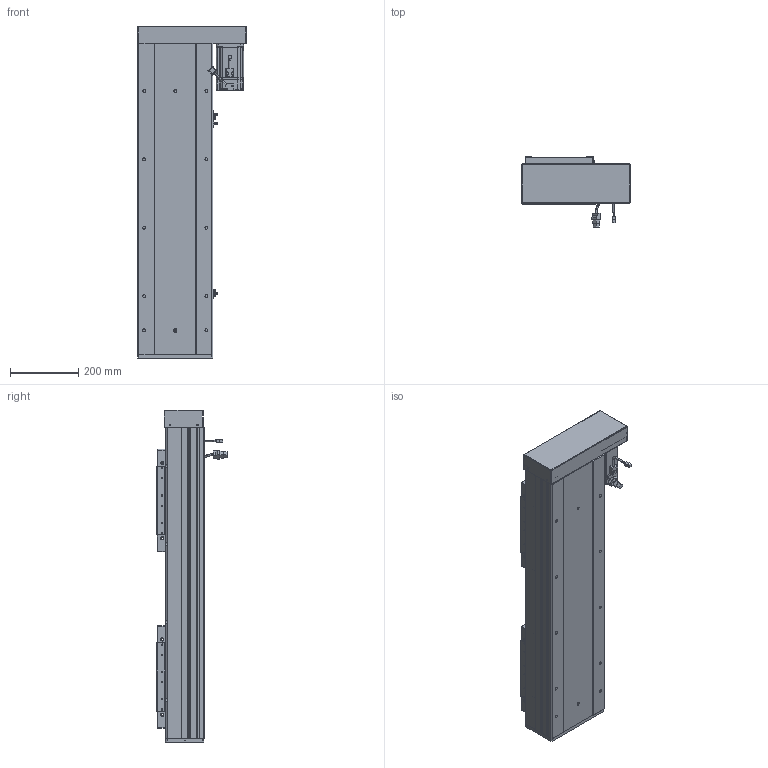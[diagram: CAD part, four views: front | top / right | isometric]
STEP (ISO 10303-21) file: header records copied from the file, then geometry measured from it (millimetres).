
FILE_DESCRIPTION (( 'STEP AP203' ), '1' );
FILE_NAME ('RY220F-L2525-300-RK.SLDASM_500.step', '2022-07-04T01:34:55', ( '' ), ( '' ), 'SwSTEP 2.0', 'SolidWorks 2016', '' );
FILE_SCHEMA (( 'CONFIG_CONTROL_DESIGN' ));
Length unit declared in the file: millimetre
Products named in the file (15): RY220F-祥凄詩湍-蛌殏-300_500; RY220F-L2525-300-RK.SLDASM_500; 滅袉蝶18-24; RY220F-詩湍揤踡輸; RY220F-672覜茼んえ; RY220F綴裔啣; RY220酘衵殏萇儂欶; 覜茼ん672; RY220F臏賑釱25-32佪裝; 怢湛750W_ECMA-CX0807ES; 侐源滅袉蝶; RY220左右折电机安装板; RY220F-滅鳥奻裔; RY220F蛌殏菁釱-300_500; RY220F-蛌殏奻裔啣-300_500
Assembly tree (24 placements, depth 2):
  RY220F-L2525-300-RK.SLDASM_500
    RY220F蛌殏菁釱-300_500
    RY220F-蛌殏奻裔啣-300_500  x2
    怢湛750W_ECMA-CX0807ES
    RY220F臏賑釱25-32佪裝  x2
    RY220F-滅鳥奻裔  x2
    滅袉蝶18-24  x3
    RY220F綴裔啣
    RY220F-祥凄詩湍-蛌殏-300_500
    RY220F-詩湍揤踡輸  x2
    覜茼ん672  x3
    RY220F-672覜茼んえ  x2
    RY220左右折电机安装板
    RY220酘衵殏萇儂欶
    侐源滅袉蝶  x2
Bounding box: 317.5 x 205.27 x 971 mm (x, y, z)
Volume: 11150589.6 mm3; surface area: 2850513.6 mm2
Topology: 25 solids, 25 shells, 2656 faces, 7244 edges, 4512 vertices
Faces by surface type: cylinder 1186, plane 1044, cone 355, bspline 45, sphere 16, torus 10
Entity records: 65644 total; most frequent: CARTESIAN_POINT 18149, ORIENTED_EDGE 9638, DIRECTION 9248, EDGE_CURVE 4819, AXIS2_PLACEMENT_3D 3262, VERTEX_POINT 3128, LINE 2724, VECTOR 2724
